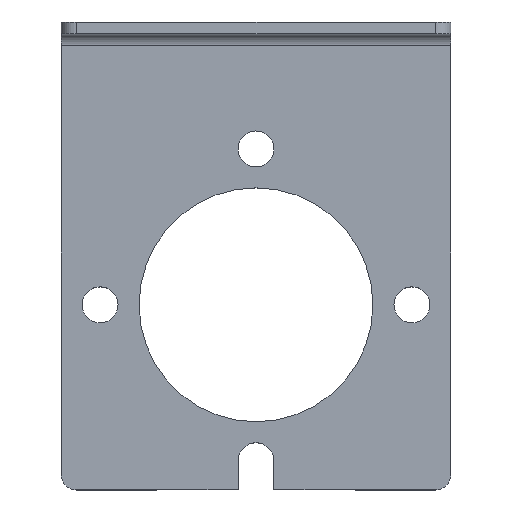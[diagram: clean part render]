
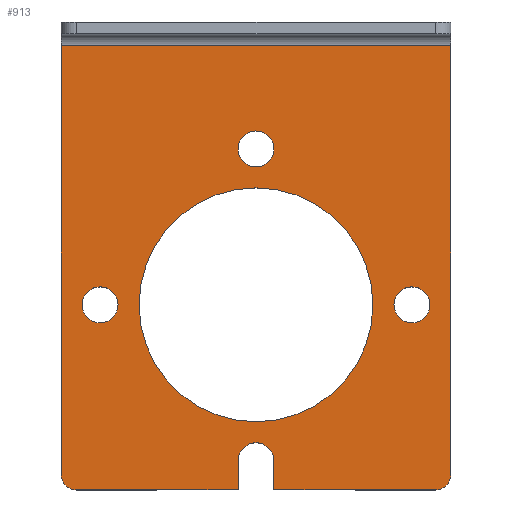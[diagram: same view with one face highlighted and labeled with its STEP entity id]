
A CAD part, top view. The second image highlights one B-rep face of the part: STEP entity #913.
In plain terms, the highlighted planar face has unit normal (0, 0, 1).
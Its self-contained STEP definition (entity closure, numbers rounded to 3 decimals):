
#73=CARTESIAN_POINT('',(50.0,-58.0,1.5));
#74=VERTEX_POINT('',#73);
#75=CARTESIAN_POINT('',(48.,-60.0,1.5));
#76=VERTEX_POINT('',#75);
#77=CARTESIAN_POINT('',(48.,-58.0,1.5));
#78=DIRECTION('',(0.0,0.0,-1.0));
#79=DIRECTION('',(0.707,-0.707,0.0));
#80=AXIS2_PLACEMENT_3D('',#77,#78,#79);
#81=CIRCLE('',#80,2.);
#82=EDGE_CURVE('',#74,#76,#81,.T.);
#157=CARTESIAN_POINT('',(50.0,-3.0,1.5));
#158=VERTEX_POINT('',#157);
#166=CARTESIAN_POINT('',(50.0,-3.0,1.5));
#167=DIRECTION('',(0.0,-1.0,0.0));
#168=VECTOR('',#167,55.0);
#169=LINE('',#166,#168);
#170=EDGE_CURVE('',#158,#74,#169,.T.);
#298=CARTESIAN_POINT('',(2.,-60.0,1.5));
#299=VERTEX_POINT('',#298);
#300=CARTESIAN_POINT('',(0.0,-58.0,1.5));
#301=VERTEX_POINT('',#300);
#302=CARTESIAN_POINT('',(2.,-58.0,1.5));
#303=DIRECTION('',(0.0,0.0,-1.));
#304=DIRECTION('',(-0.707,-0.707,0.0));
#305=AXIS2_PLACEMENT_3D('',#302,#303,#304);
#306=CIRCLE('',#305,2.0);
#307=EDGE_CURVE('',#299,#301,#306,.T.);
#331=CARTESIAN_POINT('',(0.,-3.0,1.5));
#332=VERTEX_POINT('',#331);
#333=CARTESIAN_POINT('',(0.0,-58.0,1.5));
#334=DIRECTION('',(0.0,1.0,0.0));
#335=VECTOR('',#334,55.0);
#336=LINE('',#333,#335);
#337=EDGE_CURVE('',#301,#332,#336,.T.);
#796=CARTESIAN_POINT('',(50.0,-3.0,1.5));
#797=DIRECTION('',(-1.0,0.0,0.0));
#798=VECTOR('',#797,50.0);
#799=LINE('',#796,#798);
#800=EDGE_CURVE('',#158,#332,#799,.T.);
#818=CARTESIAN_POINT('',(25.0,-31.1,1.5));
#819=DIRECTION('',(0.0,0.0,1.0));
#820=DIRECTION('',(1.0,0.0,0.0));
#821=AXIS2_PLACEMENT_3D('',#818,#819,#820);
#822=PLANE('',#821);
#823=ORIENTED_EDGE('',*,*,#82,.F.);
#824=ORIENTED_EDGE('',*,*,#170,.F.);
#825=ORIENTED_EDGE('',*,*,#800,.T.);
#826=ORIENTED_EDGE('',*,*,#337,.F.);
#827=ORIENTED_EDGE('',*,*,#307,.F.);
#828=CARTESIAN_POINT('',(22.7,-60.,1.5));
#829=VERTEX_POINT('',#828);
#830=CARTESIAN_POINT('',(22.7,-60.,1.5));
#831=DIRECTION('',(-1.0,0.0,0.0));
#832=VECTOR('',#831,20.7);
#833=LINE('',#830,#832);
#834=EDGE_CURVE('',#829,#299,#833,.T.);
#835=ORIENTED_EDGE('',*,*,#834,.F.);
#836=CARTESIAN_POINT('',(22.7,-56.25,1.5));
#837=VERTEX_POINT('',#836);
#838=CARTESIAN_POINT('',(22.7,-56.25,1.5));
#839=DIRECTION('',(0.0,-1.0,0.0));
#840=VECTOR('',#839,3.75);
#841=LINE('',#838,#840);
#842=EDGE_CURVE('',#837,#829,#841,.T.);
#843=ORIENTED_EDGE('',*,*,#842,.F.);
#844=CARTESIAN_POINT('',(27.3,-56.25,1.5));
#845=VERTEX_POINT('',#844);
#846=CARTESIAN_POINT('',(25.,-56.25,1.5));
#847=DIRECTION('',(0.0,0.0,1.0));
#848=DIRECTION('',(1.0,0.0,0.0));
#849=AXIS2_PLACEMENT_3D('',#846,#847,#848);
#850=CIRCLE('',#849,2.3);
#851=EDGE_CURVE('',#845,#837,#850,.T.);
#852=ORIENTED_EDGE('',*,*,#851,.F.);
#853=CARTESIAN_POINT('',(27.3,-60.,1.5));
#854=VERTEX_POINT('',#853);
#855=CARTESIAN_POINT('',(27.3,-60.,1.5));
#856=DIRECTION('',(0.0,1.0,0.0));
#857=VECTOR('',#856,3.75);
#858=LINE('',#855,#857);
#859=EDGE_CURVE('',#854,#845,#858,.T.);
#860=ORIENTED_EDGE('',*,*,#859,.F.);
#861=CARTESIAN_POINT('',(48.,-60.0,1.5));
#862=DIRECTION('',(-1.0,0.0,0.0));
#863=VECTOR('',#862,20.7);
#864=LINE('',#861,#863);
#865=EDGE_CURVE('',#76,#854,#864,.T.);
#866=ORIENTED_EDGE('',*,*,#865,.F.);
#867=EDGE_LOOP('',(#823,#824,#825,#826,#827,#835,#843,#852,#860,#866));
#868=FACE_OUTER_BOUND('',#867,.T.);
#869=CARTESIAN_POINT('',(27.3,-16.25,1.5));
#870=VERTEX_POINT('',#869);
#871=CARTESIAN_POINT('',(25.,-16.25,1.5));
#872=DIRECTION('',(0.0,0.0,-1.0));
#873=DIRECTION('',(-1.0,0.0,0.0));
#874=AXIS2_PLACEMENT_3D('',#871,#872,#873);
#875=CIRCLE('',#874,2.3);
#876=EDGE_CURVE('',#870,#870,#875,.T.);
#877=ORIENTED_EDGE('',*,*,#876,.T.);
#878=EDGE_LOOP('',(#877));
#879=FACE_BOUND('',#878,.T.);
#880=CARTESIAN_POINT('',(7.3,-36.25,1.5));
#881=VERTEX_POINT('',#880);
#882=CARTESIAN_POINT('',(5.,-36.25,1.5));
#883=DIRECTION('',(0.0,0.0,-1.0));
#884=DIRECTION('',(-1.0,0.0,0.0));
#885=AXIS2_PLACEMENT_3D('',#882,#883,#884);
#886=CIRCLE('',#885,2.3);
#887=EDGE_CURVE('',#881,#881,#886,.T.);
#888=ORIENTED_EDGE('',*,*,#887,.T.);
#889=EDGE_LOOP('',(#888));
#890=FACE_BOUND('',#889,.T.);
#891=CARTESIAN_POINT('',(47.3,-36.25,1.5));
#892=VERTEX_POINT('',#891);
#893=CARTESIAN_POINT('',(45.,-36.25,1.5));
#894=DIRECTION('',(0.0,0.0,-1.0));
#895=DIRECTION('',(-1.0,0.0,0.0));
#896=AXIS2_PLACEMENT_3D('',#893,#894,#895);
#897=CIRCLE('',#896,2.3);
#898=EDGE_CURVE('',#892,#892,#897,.T.);
#899=ORIENTED_EDGE('',*,*,#898,.T.);
#900=EDGE_LOOP('',(#899));
#901=FACE_BOUND('',#900,.T.);
#902=CARTESIAN_POINT('',(40.,-36.25,1.5));
#903=VERTEX_POINT('',#902);
#904=CARTESIAN_POINT('',(25.,-36.25,1.5));
#905=DIRECTION('',(0.0,0.0,-1.0));
#906=DIRECTION('',(-1.0,0.0,0.0));
#907=AXIS2_PLACEMENT_3D('',#904,#905,#906);
#908=CIRCLE('',#907,15.0);
#909=EDGE_CURVE('',#903,#903,#908,.T.);
#910=ORIENTED_EDGE('',*,*,#909,.T.);
#911=EDGE_LOOP('',(#910));
#912=FACE_BOUND('',#911,.T.);
#913=ADVANCED_FACE('',(#868,#879,#890,#901,#912),#822,.T.);
